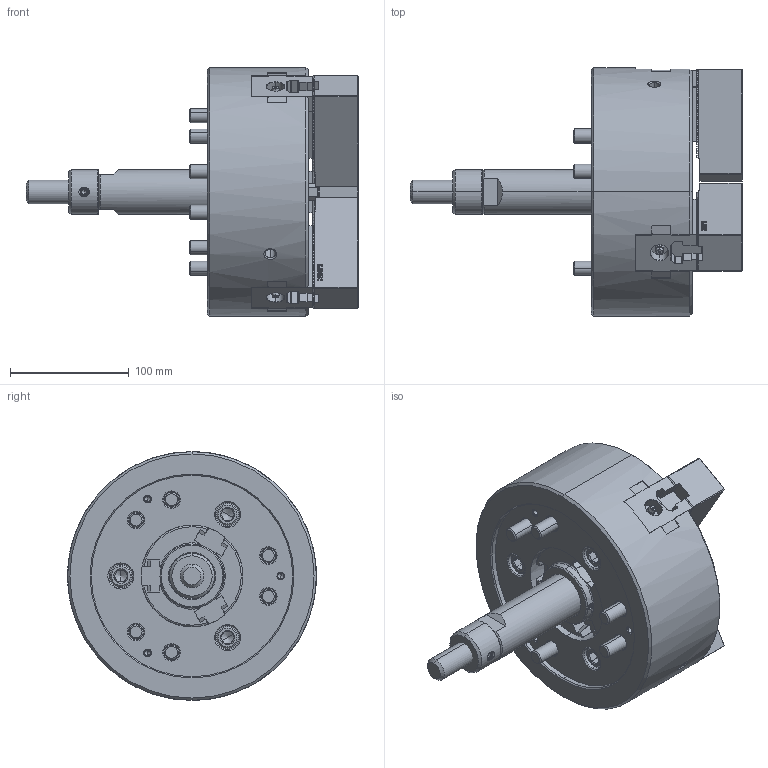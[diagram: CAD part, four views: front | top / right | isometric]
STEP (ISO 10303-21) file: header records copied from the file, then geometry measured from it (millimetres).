
FILE_DESCRIPTION (( 'STEP AP214' ), '1' );
FILE_NAME ('DT1_N-08_OUTSIDE_VIEW_HOL.STEP', '2026-03-13T04:47:52', ( '' ), ( '' ), 'SwSTEP 2.0', 'SolidWorks 2022', '' );
FILE_SCHEMA (( 'AUTOMOTIVE_DESIGN' ));
Length unit declared in the file: millimetre
Products named in the file (11): DT1_N-08_M5x12^DT1_N-08; DT1_N-08_BASE^DT1_N-08; DT1_N-08_M12x85^DT1_N-08; DT1_N-08_TNUT^DT1_N-08; DT1_N-08_DRAWSCREW^DT1_N-08; DT1_N-08_OUTSIDE_VIEW_HOL; DT1_N-08_M12x35^DT1_N-08; DT1_N-08_COVER^DT1_N-08; DT1_N-08_SOFTJAW^DT1_N-08; Copy of 61P310518^DT1_N-08; DT1_N-08_DN^DT1_N-08
Assembly tree (26 placements, depth 2):
  DT1_N-08_OUTSIDE_VIEW_HOL
    DT1_N-08_SOFTJAW^DT1_N-08  x3
    DT1_N-08_TNUT^DT1_N-08  x3
    DT1_N-08_COVER^DT1_N-08
    DT1_N-08_DRAWSCREW^DT1_N-08
    Copy of 61P310518^DT1_N-08
    DT1_N-08_DN^DT1_N-08
    DT1_N-08_BASE^DT1_N-08
    DT1_N-08_M5x12^DT1_N-08  x3
    DT1_N-08_M12x35^DT1_N-08  x6
    DT1_N-08_M12x85^DT1_N-08  x6
Bounding box: 280.12 x 210 x 210 mm (x, y, z)
Volume: 3171789.7 mm3; surface area: 387726 mm2
Topology: 26 solids, 26 shells, 4675 faces, 13146 edges, 8612 vertices
Faces by surface type: plane 2684, cylinder 1150, bspline 427, cone 350, torus 58, sphere 6
Entity records: 106958 total; most frequent: CARTESIAN_POINT 33847, ORIENTED_EDGE 16684, DIRECTION 12834, EDGE_CURVE 8342, LINE 5802, VECTOR 5802, VERTEX_POINT 5472, AXIS2_PLACEMENT_3D 3516
